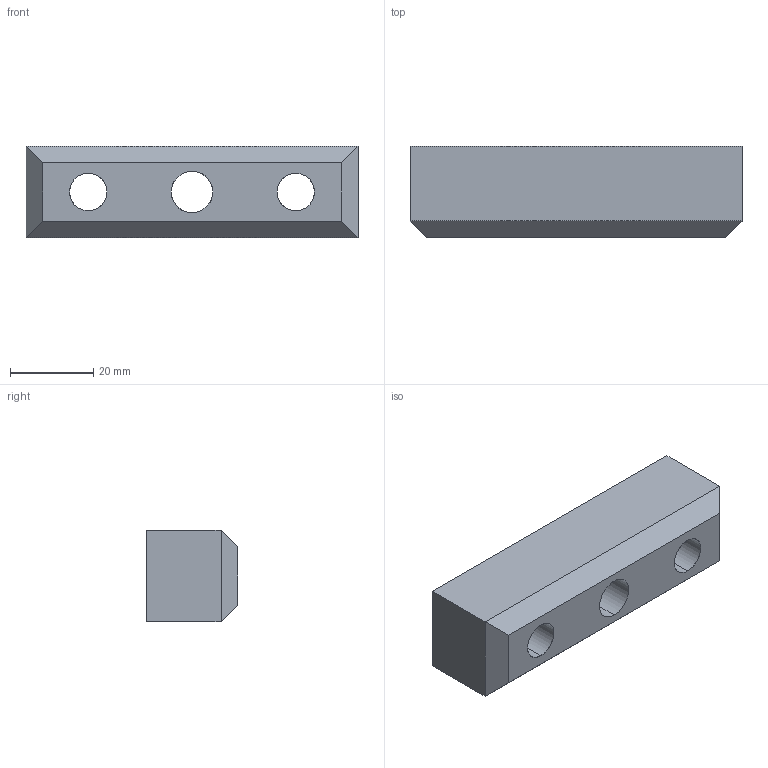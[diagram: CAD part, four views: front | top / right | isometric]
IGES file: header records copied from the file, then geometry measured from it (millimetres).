
Start section: START RECORD GO HERE.
Global section: file name: 761-022080.igs; native system: DASSAULT SYSTEMES CATIA V5 R20 - www.3ds.com; preprocessor: CATIA Version 5 Release 20 ; author: Utente; organization: NB04-ASUS; date: 20200411.200951; units: millimetre
Bounding box: 80 x 22 x 22 mm (x, y, z)
Surface area: 9624.1 mm2 (no closed solid volume)
Topology: 0 solids, 0 shells, 25 faces, 112 edges, 112 vertices
Faces by surface type: extrusion 13, revolution 12
